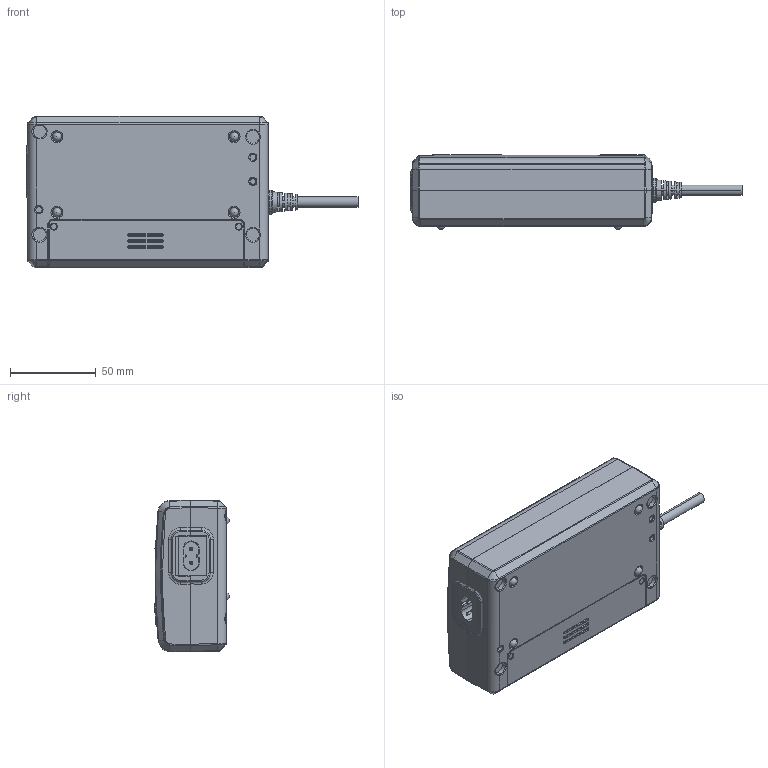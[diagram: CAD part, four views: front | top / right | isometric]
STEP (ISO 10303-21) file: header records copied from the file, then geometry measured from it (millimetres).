
FILE_DESCRIPTION (( 'STEP AP203' ), '1' );
FILE_NAME ('產品三維模型圖-TP2N-A.STEP', '2017-09-08T09:02:22', ( '' ), ( '' ), 'SwSTEP 2.0', 'SolidWorks 2015', '' );
FILE_SCHEMA (( 'CONFIG_CONTROL_DESIGN' ));
Length unit declared in the file: millimetre
Products named in the file (1): 產品三維模型圖-TP2N-A
Bounding box: 193.1 x 43.54 x 88.3 mm (x, y, z)
Volume: 498424.6 mm3; surface area: 79832.6 mm2
Topology: 7 solids, 7 shells, 2008 faces, 5604 edges, 3652 vertices
Faces by surface type: plane 1528, cylinder 223, bspline 135, torus 70, cone 35, sphere 17
Entity records: 69747 total; most frequent: CARTESIAN_POINT 25126, ORIENTED_EDGE 11160, DIRECTION 7257, EDGE_CURVE 5580, VERTEX_POINT 3644, AXIS2_PLACEMENT_3D 2455, LINE 2347, VECTOR 2347
